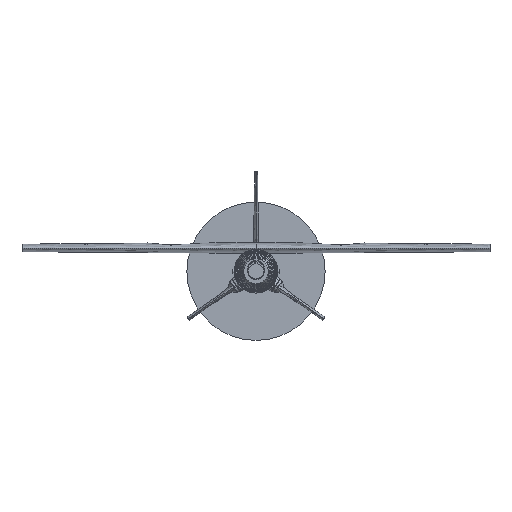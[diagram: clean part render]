
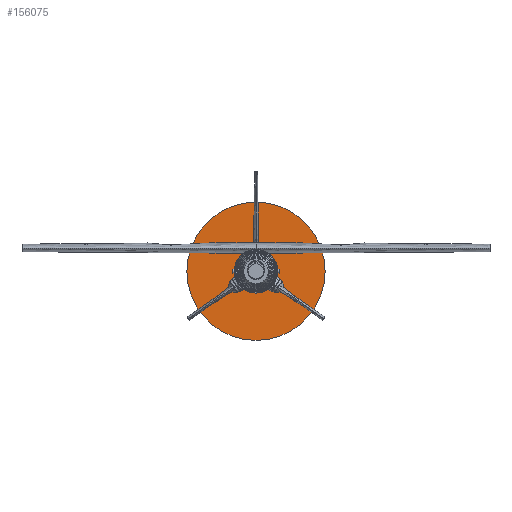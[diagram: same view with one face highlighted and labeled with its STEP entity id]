
A CAD part, left-side view. The second image highlights one B-rep face of the part: STEP entity #156075.
In plain terms, the highlighted planar face has unit normal (-1, 0, 0).
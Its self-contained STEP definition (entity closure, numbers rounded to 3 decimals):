
#155997 = CYLINDRICAL_SURFACE('',#155998,63.5);
#155998 = AXIS2_PLACEMENT_3D('',#155999,#156000,#156001);
#155999 = CARTESIAN_POINT('',(450.85,0.,0.));
#156000 = DIRECTION('',(1.,0.,0.));
#156001 = DIRECTION('',(-0.,0.,1.));
#156022 = VERTEX_POINT('',#156023);
#156023 = CARTESIAN_POINT('',(450.85,0.,63.5));
#156044 = EDGE_CURVE('',#156022,#156022,#156045,.T.);
#156045 = SURFACE_CURVE('',#156046,(#156051,#156058),.PCURVE_S1.);
#156046 = CIRCLE('',#156047,63.5);
#156047 = AXIS2_PLACEMENT_3D('',#156048,#156049,#156050);
#156048 = CARTESIAN_POINT('',(450.85,0.,0.));
#156049 = DIRECTION('',(1.,0.,0.));
#156050 = DIRECTION('',(-0.,0.,1.));
#156051 = PCURVE('',#155997,#156052);
#156052 = DEFINITIONAL_REPRESENTATION('',(#156053),#156057);
#156053 = LINE('',#156054,#156055);
#156054 = CARTESIAN_POINT('',(0.,0.));
#156055 = VECTOR('',#156056,1.);
#156056 = DIRECTION('',(1.,0.));
#156057 = ( GEOMETRIC_REPRESENTATION_CONTEXT(2) 
PARAMETRIC_REPRESENTATION_CONTEXT() REPRESENTATION_CONTEXT('2D SPACE',''
  ) );
#156058 = PCURVE('',#156059,#156064);
#156059 = PLANE('',#156060);
#156060 = AXIS2_PLACEMENT_3D('',#156061,#156062,#156063);
#156061 = CARTESIAN_POINT('',(450.85,0.,0.));
#156062 = DIRECTION('',(1.,0.,0.));
#156063 = DIRECTION('',(-0.,0.,1.));
#156064 = DEFINITIONAL_REPRESENTATION('',(#156065),#156069);
#156065 = CIRCLE('',#156066,63.5);
#156066 = AXIS2_PLACEMENT_2D('',#156067,#156068);
#156067 = CARTESIAN_POINT('',(0.,0.));
#156068 = DIRECTION('',(1.,0.));
#156069 = ( GEOMETRIC_REPRESENTATION_CONTEXT(2) 
PARAMETRIC_REPRESENTATION_CONTEXT() REPRESENTATION_CONTEXT('2D SPACE',''
  ) );
#156075 = ADVANCED_FACE('',(#156076),#156059,.F.);
#156076 = FACE_BOUND('',#156077,.T.);
#156077 = EDGE_LOOP('',(#156078));
#156078 = ORIENTED_EDGE('',*,*,#156044,.F.);
